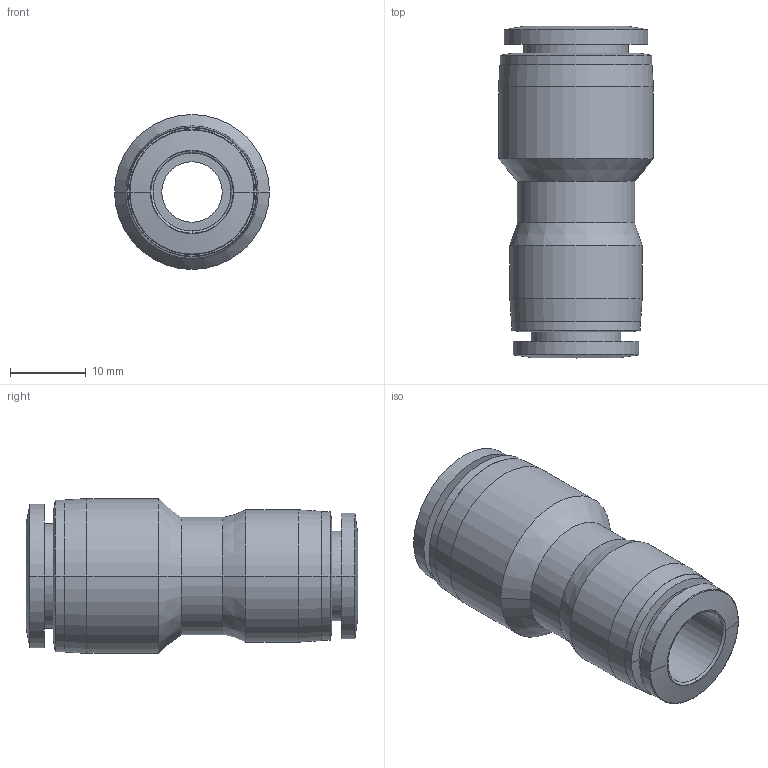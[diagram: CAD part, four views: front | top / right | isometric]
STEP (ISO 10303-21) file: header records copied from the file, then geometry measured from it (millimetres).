
FILE_DESCRIPTION (( 'STEP AP203' ), '1' );
FILE_NAME ('FRH12-10.STEP', '2020-05-12T15:01:41', ( '' ), ( '' ), 'SwSTEP 2.0', 'SolidWorks 2019', '' );
FILE_SCHEMA (( 'CONFIG_CONTROL_DESIGN' ));
Length unit declared in the file: millimetre
Products named in the file (1): FRH12-10
Bounding box: 20.5 x 43.9 x 20.5 mm (x, y, z)
Volume: 6666.6 mm3; surface area: 4927.1 mm2
Topology: 1 solids, 1 shells, 56 faces, 120 edges, 74 vertices
Faces by surface type: cylinder 24, cone 16, plane 10, torus 6
Entity records: 1621 total; most frequent: DIRECTION 314, CARTESIAN_POINT 251, ORIENTED_EDGE 240, AXIS2_PLACEMENT_3D 137, EDGE_CURVE 120, CIRCLE 80, VERTEX_POINT 74, EDGE_LOOP 66
